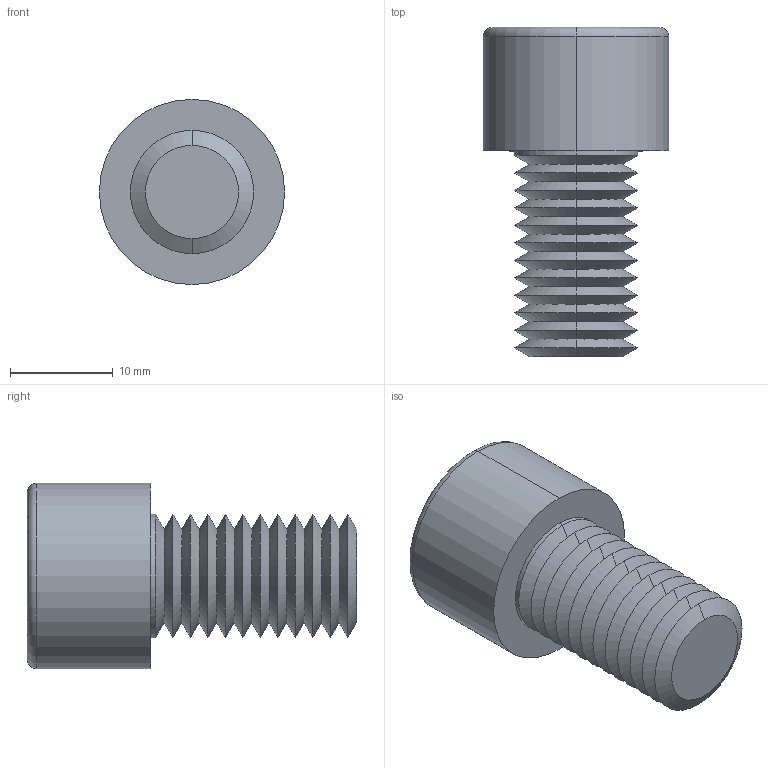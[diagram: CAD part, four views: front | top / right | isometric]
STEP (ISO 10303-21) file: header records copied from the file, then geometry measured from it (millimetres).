
FILE_DESCRIPTION (( 'STEP AP203' ), '1' );
FILE_NAME ('91N.120.0200.step', '2025-05-20T08:55:54', ( '' ), ( '' ), 'SwSTEP 2.0', 'SolidWorks 2019', '' );
FILE_SCHEMA (( 'CONFIG_CONTROL_DESIGN' ));
Length unit declared in the file: millimetre
Products named in the file (1): 91N.120.0200
Bounding box: 18 x 32 x 18 mm (x, y, z)
Volume: 3865.7 mm3; surface area: 2782.5 mm2
Topology: 1 solids, 1 shells, 76 faces, 151 edges, 77 vertices
Faces by surface type: cone 55, plane 15, cylinder 4, torus 2
Entity records: 1982 total; most frequent: DIRECTION 367, CARTESIAN_POINT 334, ORIENTED_EDGE 298, EDGE_CURVE 149, AXIS2_PLACEMENT_3D 148, EDGE_LOOP 78, VERTEX_POINT 77, FACE_OUTER_BOUND 76
